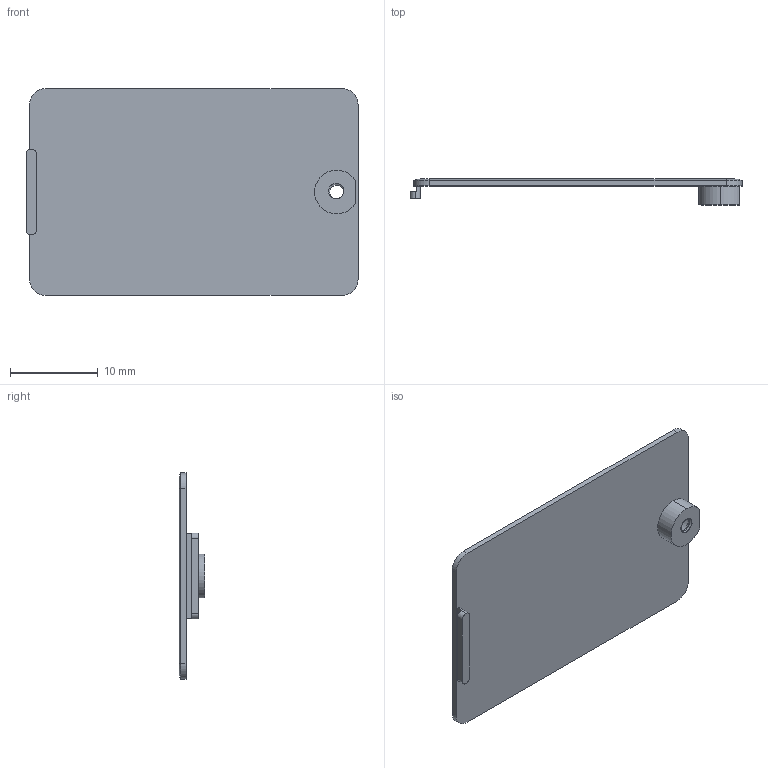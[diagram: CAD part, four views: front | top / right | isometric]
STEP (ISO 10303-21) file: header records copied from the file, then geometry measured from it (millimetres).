
FILE_DESCRIPTION (( 'STEP AP203' ), '1' );
FILE_NAME ('零件1上盖-0.2mm配合间隙.STEP', '2022-12-13T18:26:32', ( 'HHY' ), ( '' ), 'SwSTEP 2.0', 'SolidWorks 2021', '' );
FILE_SCHEMA (( 'CONFIG_CONTROL_DESIGN' ));
Length unit declared in the file: millimetre
Products named in the file (1): 零件1上盖-0.2mm配合间隙
Bounding box: 37.9 x 2.95 x 23.6 mm (x, y, z)
Volume: 716.7 mm3; surface area: 1948.5 mm2
Topology: 1 solids, 1 shells, 52 faces, 130 edges, 83 vertices
Faces by surface type: cylinder 26, plane 19, torus 4, bspline 3
Entity records: 1838 total; most frequent: CARTESIAN_POINT 514, DIRECTION 268, ORIENTED_EDGE 260, EDGE_CURVE 130, AXIS2_PLACEMENT_3D 102, VERTEX_POINT 83, VECTOR 64, LINE 64
